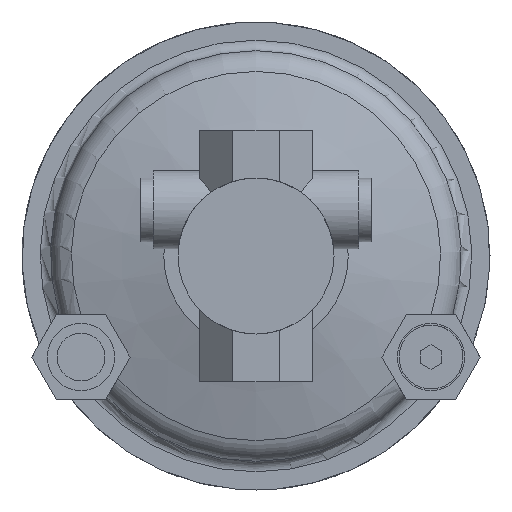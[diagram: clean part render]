
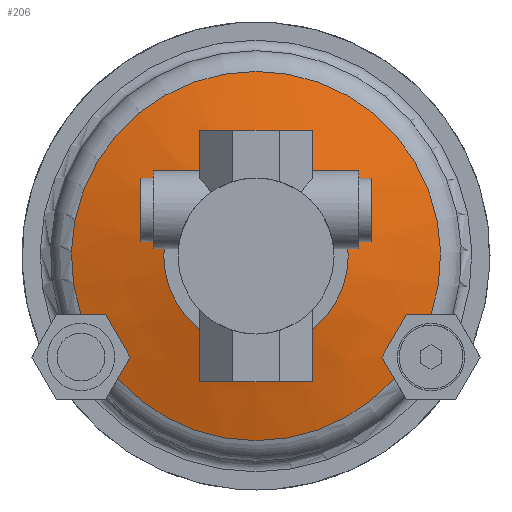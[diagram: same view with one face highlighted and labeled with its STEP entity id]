
A CAD part, front view. The second image highlights one B-rep face of the part: STEP entity #206.
In plain terms, the highlighted conical face has half-angle 74.828 degrees and reference radius 52.071 mm.
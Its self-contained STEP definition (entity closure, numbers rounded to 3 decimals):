
#112=CARTESIAN_POINT('',(24.694,0.,0.0));
#113=VERTEX_POINT('',#112);
#114=CARTESIAN_POINT('',(0.0,0.0,0.0));
#115=DIRECTION('',(0.0,-1.0,0.0));
#116=DIRECTION('',(1.0,0.0,0.0));
#117=AXIS2_PLACEMENT_3D('',#114,#115,#116);
#118=CIRCLE('',#117,24.694);
#119=EDGE_CURVE('',#113,#113,#118,.T.);
#124=CARTESIAN_POINT('',(0.0,7.423,0.0));
#125=DIRECTION('',(0.0,1.0,0.0));
#126=DIRECTION('',(1.0,0.0,0.0));
#127=AXIS2_PLACEMENT_3D('',#124,#125,#126);
#128=CONICAL_SURFACE('',#127,52.071,74.828);
#129=CARTESIAN_POINT('',(-16.5,7.423,-49.387));
#130=VERTEX_POINT('',#129);
#131=CARTESIAN_POINT('',(-16.5,7.423,49.387));
#132=VERTEX_POINT('',#131);
#133=CARTESIAN_POINT('',(0.0,7.423,0.0));
#134=DIRECTION('',(0.0,-1.0,0.0));
#135=DIRECTION('',(1.0,0.0,0.0));
#136=AXIS2_PLACEMENT_3D('',#133,#134,#135);
#137=CIRCLE('',#136,52.071);
#138=EDGE_CURVE('',#130,#132,#137,.T.);
#139=ORIENTED_EDGE('',*,*,#138,.T.);
#140=CARTESIAN_POINT('',(-16.5,5.65,42.435));
#141=VERTEX_POINT('',#140);
#142=CARTESIAN_POINT('',(-16.5,5.65,42.435));
#143=CARTESIAN_POINT('',(-16.5,6.236,44.754));
#144=CARTESIAN_POINT('',(-16.5,6.828,47.071));
#145=CARTESIAN_POINT('',(-16.5,7.423,49.387));
#146=B_SPLINE_CURVE_WITH_KNOTS('',3,(#142,#143,#144,#145),.UNSPECIFIED.,.F.,.U.,(4,4),(0.0,7.175),.UNSPECIFIED.);
#147=EDGE_CURVE('',#141,#132,#146,.T.);
#148=ORIENTED_EDGE('',*,*,#147,.F.);
#149=CARTESIAN_POINT('',(-28.5,5.65,35.507));
#150=VERTEX_POINT('',#149);
#151=CARTESIAN_POINT('',(-28.5,5.65,35.507));
#152=CARTESIAN_POINT('',(-24.503,5.459,37.815));
#153=CARTESIAN_POINT('',(-20.498,5.459,40.127));
#154=CARTESIAN_POINT('',(-16.5,5.65,42.435));
#155=B_SPLINE_CURVE_WITH_KNOTS('',3,(#151,#152,#153,#154),.UNSPECIFIED.,.F.,.U.,(4,4),(0.0,13.86),.UNSPECIFIED.);
#156=EDGE_CURVE('',#150,#141,#155,.T.);
#157=ORIENTED_EDGE('',*,*,#156,.F.);
#158=CARTESIAN_POINT('',(-34.521,7.423,38.983));
#159=VERTEX_POINT('',#158);
#160=CARTESIAN_POINT('',(-34.521,7.423,38.983));
#161=CARTESIAN_POINT('',(-32.515,6.828,37.825));
#162=CARTESIAN_POINT('',(-30.508,6.236,36.666));
#163=CARTESIAN_POINT('',(-28.5,5.65,35.507));
#164=B_SPLINE_CURVE_WITH_KNOTS('',3,(#160,#161,#162,#163),.UNSPECIFIED.,.F.,.U.,(4,4),(0.0,7.175),.UNSPECIFIED.);
#165=EDGE_CURVE('',#159,#150,#164,.T.);
#166=ORIENTED_EDGE('',*,*,#165,.F.);
#167=CARTESIAN_POINT('',(-34.521,7.423,-38.983));
#168=VERTEX_POINT('',#167);
#169=CARTESIAN_POINT('',(0.0,7.423,0.0));
#170=DIRECTION('',(0.0,-1.0,0.0));
#171=DIRECTION('',(1.0,0.0,0.0));
#172=AXIS2_PLACEMENT_3D('',#169,#170,#171);
#173=CIRCLE('',#172,52.071);
#174=EDGE_CURVE('',#159,#168,#173,.T.);
#175=ORIENTED_EDGE('',*,*,#174,.T.);
#176=CARTESIAN_POINT('',(-28.5,5.65,-35.507));
#177=VERTEX_POINT('',#176);
#178=CARTESIAN_POINT('',(-28.5,5.65,-35.507));
#179=CARTESIAN_POINT('',(-30.508,6.236,-36.666));
#180=CARTESIAN_POINT('',(-32.515,6.828,-37.825));
#181=CARTESIAN_POINT('',(-34.521,7.423,-38.983));
#182=B_SPLINE_CURVE_WITH_KNOTS('',3,(#178,#179,#180,#181),.UNSPECIFIED.,.F.,.U.,(4,4),(0.0,7.175),.UNSPECIFIED.);
#183=EDGE_CURVE('',#177,#168,#182,.T.);
#184=ORIENTED_EDGE('',*,*,#183,.F.);
#185=CARTESIAN_POINT('',(-16.5,5.65,-42.435));
#186=VERTEX_POINT('',#185);
#187=CARTESIAN_POINT('',(-16.5,5.65,-42.435));
#188=CARTESIAN_POINT('',(-20.497,5.459,-40.127));
#189=CARTESIAN_POINT('',(-24.502,5.459,-37.815));
#190=CARTESIAN_POINT('',(-28.5,5.65,-35.507));
#191=B_SPLINE_CURVE_WITH_KNOTS('',3,(#187,#188,#189,#190),.UNSPECIFIED.,.F.,.U.,(4,4),(0.0,13.86),.UNSPECIFIED.);
#192=EDGE_CURVE('',#186,#177,#191,.T.);
#193=ORIENTED_EDGE('',*,*,#192,.F.);
#194=CARTESIAN_POINT('',(-16.5,7.423,-49.387));
#195=CARTESIAN_POINT('',(-16.5,6.828,-47.071));
#196=CARTESIAN_POINT('',(-16.5,6.236,-44.754));
#197=CARTESIAN_POINT('',(-16.5,5.65,-42.435));
#198=B_SPLINE_CURVE_WITH_KNOTS('',3,(#194,#195,#196,#197),.UNSPECIFIED.,.F.,.U.,(4,4),(0.0,7.175),.UNSPECIFIED.);
#199=EDGE_CURVE('',#130,#186,#198,.T.);
#200=ORIENTED_EDGE('',*,*,#199,.F.);
#201=EDGE_LOOP('',(#139,#148,#157,#166,#175,#184,#193,#200));
#202=FACE_OUTER_BOUND('',#201,.T.);
#203=ORIENTED_EDGE('',*,*,#119,.F.);
#204=EDGE_LOOP('',(#203));
#205=FACE_BOUND('',#204,.T.);
#206=ADVANCED_FACE('',(#202,#205),#128,.T.);
